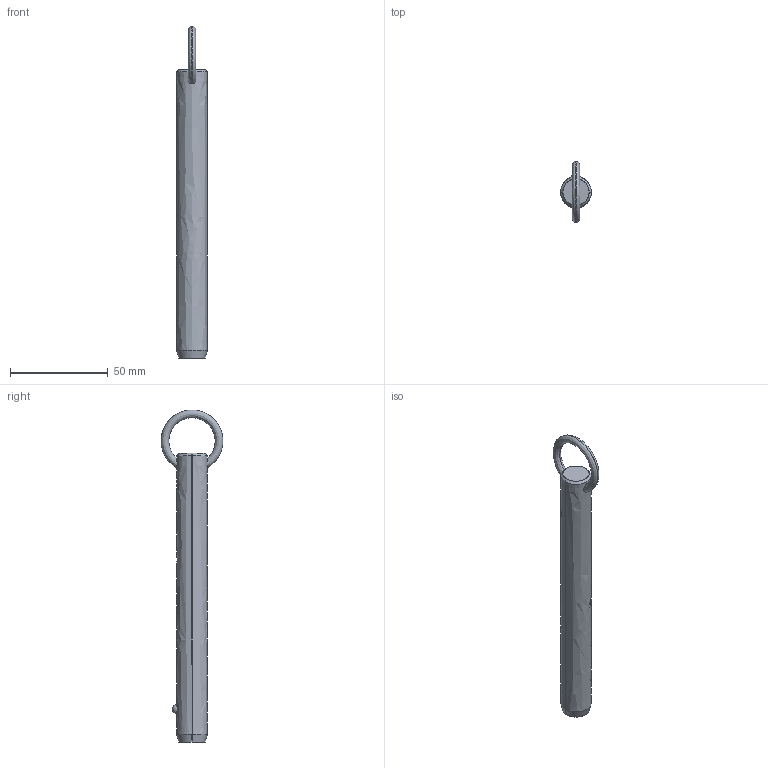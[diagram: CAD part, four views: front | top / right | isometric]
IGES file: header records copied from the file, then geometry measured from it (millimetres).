
Start section: SolidWorks IGES file using analytic representation for surfaces
Global section: file name: C:\Users\liam_\OneDrive\Documents\WORK\Work for WixRoyd\Job Files\J-00019 - Matt Davis CAD Checking\04. CAD Drawings\automotion20190605\P1250.2_v2\P1250.2_v2_20190729_IGES\P1250.062-470.igs; native system: SolidWorks 2017; preprocessor: SolidWorks 2017; author: liam_; date: 190729.233830; units: millimetre
Bounding box: 15.8 x 31.7 x 170.1 mm (x, y, z)
Surface area: 8515.2 mm2 (no closed solid volume)
Topology: 0 solids, 0 shells, 12 faces, 292 edges, 290 vertices
Faces by surface type: revolution 8, bspline 4
